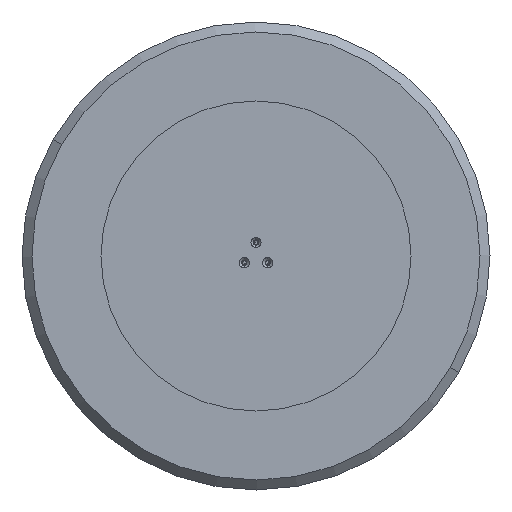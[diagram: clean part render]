
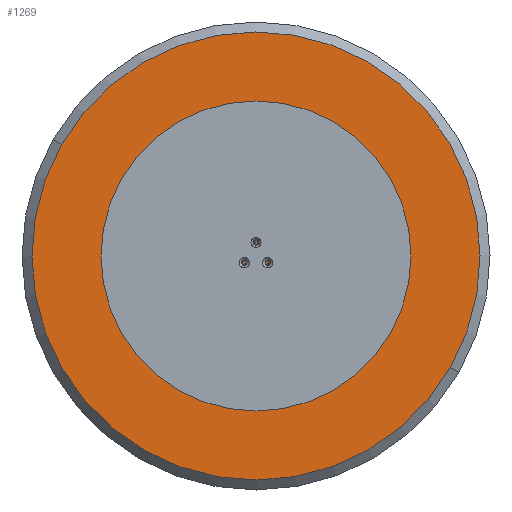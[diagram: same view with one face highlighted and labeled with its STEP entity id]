
A CAD part, front view. The second image highlights one B-rep face of the part: STEP entity #1269.
In plain terms, the highlighted planar face has unit normal (0, -1, 0).
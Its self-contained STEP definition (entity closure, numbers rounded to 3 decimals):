
#72 = DIRECTION ( 'NONE',  ( 0., -1., 0. ) ) ;
#159 = CIRCLE ( 'NONE', #2537, 383. ) ;
#196 = VERTEX_POINT ( 'NONE', #2316 ) ;
#298 = DIRECTION ( 'NONE',  ( 0., 0., -1. ) ) ;
#304 = AXIS2_PLACEMENT_3D ( 'NONE', #1870, #308, #3157 ) ;
#306 = AXIS2_PLACEMENT_3D ( 'NONE', #2481, #3077, #2085 ) ;
#308 = DIRECTION ( 'NONE',  ( 0., -1., 0. ) ) ;
#330 = VERTEX_POINT ( 'NONE', #1031 ) ;
#374 = ORIENTED_EDGE ( 'NONE', *, *, #960, .F. ) ;
#418 = EDGE_CURVE ( 'NONE', #330, #1438, #4051, .T. ) ;
#468 = CARTESIAN_POINT ( 'NONE',  ( 95., 0., -58.248 ) ) ;
#479 = VERTEX_POINT ( 'NONE', #3702 ) ;
#496 = DIRECTION ( 'NONE',  ( 0., -1., 0. ) ) ;
#602 = ORIENTED_EDGE ( 'NONE', *, *, #613, .T. ) ;
#613 = EDGE_CURVE ( 'NONE', #1125, #2377, #159, .T. ) ;
#616 = DIRECTION ( 'NONE',  ( 0., 0., -1. ) ) ;
#622 = DIRECTION ( 'NONE',  ( 0., 0., -1. ) ) ;
#719 = ORIENTED_EDGE ( 'NONE', *, *, #3461, .F. ) ;
#744 = DIRECTION ( 'NONE',  ( 0., -1., 0. ) ) ;
#763 = CARTESIAN_POINT ( 'NONE',  ( 0., 0., 0. ) ) ;
#801 = DIRECTION ( 'NONE',  ( 0., 0., -1. ) ) ;
#960 = EDGE_CURVE ( 'NONE', #196, #2487, #3629, .T. ) ;
#1018 = FACE_OUTER_BOUND ( 'NONE', #1629, .T. ) ;
#1031 = CARTESIAN_POINT ( 'NONE',  ( 95., 0., -51.448 ) ) ;
#1038 = DIRECTION ( 'NONE',  ( 0., -1., 0. ) ) ;
#1082 = CIRCLE ( 'NONE', #2619, 3.4 ) ;
#1084 = ORIENTED_EDGE ( 'NONE', *, *, #3471, .F. ) ;
#1125 = VERTEX_POINT ( 'NONE', #2475 ) ;
#1128 = DIRECTION ( 'NONE',  ( 0., -1., 0. ) ) ;
#1146 = DIRECTION ( 'NONE',  ( 0., 0., -1. ) ) ;
#1173 = EDGE_CURVE ( 'NONE', #2174, #479, #1417, .T. ) ;
#1184 = DIRECTION ( 'NONE',  ( 0., -1., 0. ) ) ;
#1193 = EDGE_LOOP ( 'NONE', ( #3260, #2799 ) ) ;
#1220 = CIRCLE ( 'NONE', #1753, 3.4 ) ;
#1269 = ADVANCED_FACE ( 'NONE', ( #3841, #3201, #3511, #1018, #2289 ), #2950, .T. ) ;
#1297 = DIRECTION ( 'NONE',  ( 0., 0., -1. ) ) ;
#1333 = CARTESIAN_POINT ( 'NONE',  ( 0., 0., 0. ) ) ;
#1417 = CIRCLE ( 'NONE', #304, 3.4 ) ;
#1425 = CIRCLE ( 'NONE', #1954, 3.4 ) ;
#1438 = VERTEX_POINT ( 'NONE', #468 ) ;
#1442 = DIRECTION ( 'NONE',  ( 0., 0., -1. ) ) ;
#1605 = AXIS2_PLACEMENT_3D ( 'NONE', #763, #3314, #801 ) ;
#1629 = EDGE_LOOP ( 'NONE', ( #602, #1896 ) ) ;
#1688 = VERTEX_POINT ( 'NONE', #2865 ) ;
#1705 = DIRECTION ( 'NONE',  ( 0., 0., -1. ) ) ;
#1748 = DIRECTION ( 'NONE',  ( 0., -1., 0. ) ) ;
#1753 = AXIS2_PLACEMENT_3D ( 'NONE', #1927, #2837, #298 ) ;
#1789 = EDGE_LOOP ( 'NONE', ( #719, #2320 ) ) ;
#1841 = EDGE_LOOP ( 'NONE', ( #3619, #374 ) ) ;
#1870 = CARTESIAN_POINT ( 'NONE',  ( -95., 0., -54.848 ) ) ;
#1896 = ORIENTED_EDGE ( 'NONE', *, *, #3132, .T. ) ;
#1927 = CARTESIAN_POINT ( 'NONE',  ( 95., 0., -54.848 ) ) ;
#1943 = EDGE_LOOP ( 'NONE', ( #1084, #2552 ) ) ;
#1954 = AXIS2_PLACEMENT_3D ( 'NONE', #2904, #72, #622 ) ;
#2079 = CIRCLE ( 'NONE', #306, 3.4 ) ;
#2085 = DIRECTION ( 'NONE',  ( 0., 0., -1. ) ) ;
#2086 = CARTESIAN_POINT ( 'NONE',  ( 95., 0., -54.848 ) ) ;
#2170 = AXIS2_PLACEMENT_3D ( 'NONE', #2975, #1748, #1442 ) ;
#2174 = VERTEX_POINT ( 'NONE', #3144 ) ;
#2289 = FACE_BOUND ( 'NONE', #1841, .T. ) ;
#2300 = AXIS2_PLACEMENT_3D ( 'NONE', #1333, #1038, #1297 ) ;
#2316 = CARTESIAN_POINT ( 'NONE',  ( 0., 0., 3.4 ) ) ;
#2320 = ORIENTED_EDGE ( 'NONE', *, *, #3901, .F. ) ;
#2377 = VERTEX_POINT ( 'NONE', #3729 ) ;
#2404 = CARTESIAN_POINT ( 'NONE',  ( 0., 0., 0. ) ) ;
#2459 = CARTESIAN_POINT ( 'NONE',  ( 0., 0., 0. ) ) ;
#2475 = CARTESIAN_POINT ( 'NONE',  ( 0., 0., 383. ) ) ;
#2481 = CARTESIAN_POINT ( 'NONE',  ( -95., 0., -54.848 ) ) ;
#2487 = VERTEX_POINT ( 'NONE', #3687 ) ;
#2512 = EDGE_CURVE ( 'NONE', #2487, #196, #3716, .T. ) ;
#2537 = AXIS2_PLACEMENT_3D ( 'NONE', #2459, #1184, #616 ) ;
#2552 = ORIENTED_EDGE ( 'NONE', *, *, #418, .F. ) ;
#2619 = AXIS2_PLACEMENT_3D ( 'NONE', #3743, #496, #3700 ) ;
#2795 = AXIS2_PLACEMENT_3D ( 'NONE', #2404, #744, #1705 ) ;
#2799 = ORIENTED_EDGE ( 'NONE', *, *, #3888, .F. ) ;
#2837 = DIRECTION ( 'NONE',  ( 0., -1., 0. ) ) ;
#2865 = CARTESIAN_POINT ( 'NONE',  ( 0., 0., 106.297 ) ) ;
#2869 = CIRCLE ( 'NONE', #1605, 383. ) ;
#2904 = CARTESIAN_POINT ( 'NONE',  ( 0., 0., 109.697 ) ) ;
#2950 = PLANE ( 'NONE',  #2300 ) ;
#2975 = CARTESIAN_POINT ( 'NONE',  ( 0., 0., 0. ) ) ;
#3077 = DIRECTION ( 'NONE',  ( 0., -1., 0. ) ) ;
#3132 = EDGE_CURVE ( 'NONE', #2377, #1125, #2869, .T. ) ;
#3144 = CARTESIAN_POINT ( 'NONE',  ( -95., 0., -58.248 ) ) ;
#3157 = DIRECTION ( 'NONE',  ( 0., 0., -1. ) ) ;
#3201 = FACE_BOUND ( 'NONE', #1789, .T. ) ;
#3260 = ORIENTED_EDGE ( 'NONE', *, *, #1173, .F. ) ;
#3314 = DIRECTION ( 'NONE',  ( 0., -1., 0. ) ) ;
#3461 = EDGE_CURVE ( 'NONE', #1688, #4063, #1425, .T. ) ;
#3471 = EDGE_CURVE ( 'NONE', #1438, #330, #1220, .T. ) ;
#3493 = CARTESIAN_POINT ( 'NONE',  ( 0., 0., 113.097 ) ) ;
#3511 = FACE_BOUND ( 'NONE', #1943, .T. ) ;
#3619 = ORIENTED_EDGE ( 'NONE', *, *, #2512, .F. ) ;
#3629 = CIRCLE ( 'NONE', #2170, 3.4 ) ;
#3687 = CARTESIAN_POINT ( 'NONE',  ( 0., 0., -3.4 ) ) ;
#3700 = DIRECTION ( 'NONE',  ( 0., 0., -1. ) ) ;
#3702 = CARTESIAN_POINT ( 'NONE',  ( -95., 0., -51.448 ) ) ;
#3716 = CIRCLE ( 'NONE', #2795, 3.4 ) ;
#3729 = CARTESIAN_POINT ( 'NONE',  ( 0., 0., -383. ) ) ;
#3743 = CARTESIAN_POINT ( 'NONE',  ( 0., 0., 109.697 ) ) ;
#3841 = FACE_BOUND ( 'NONE', #1193, .T. ) ;
#3859 = AXIS2_PLACEMENT_3D ( 'NONE', #2086, #1128, #1146 ) ;
#3888 = EDGE_CURVE ( 'NONE', #479, #2174, #2079, .T. ) ;
#3901 = EDGE_CURVE ( 'NONE', #4063, #1688, #1082, .T. ) ;
#4051 = CIRCLE ( 'NONE', #3859, 3.4 ) ;
#4063 = VERTEX_POINT ( 'NONE', #3493 ) ;
